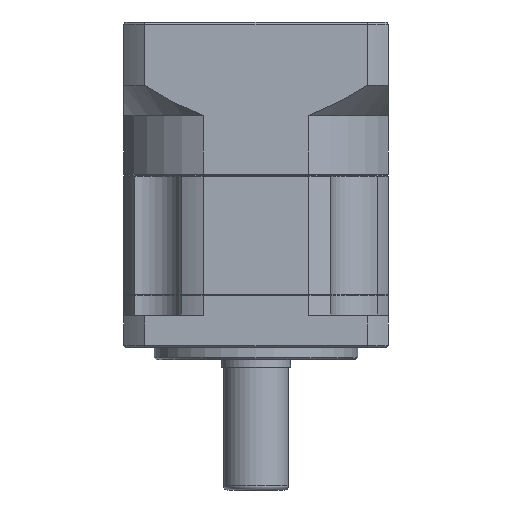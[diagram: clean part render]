
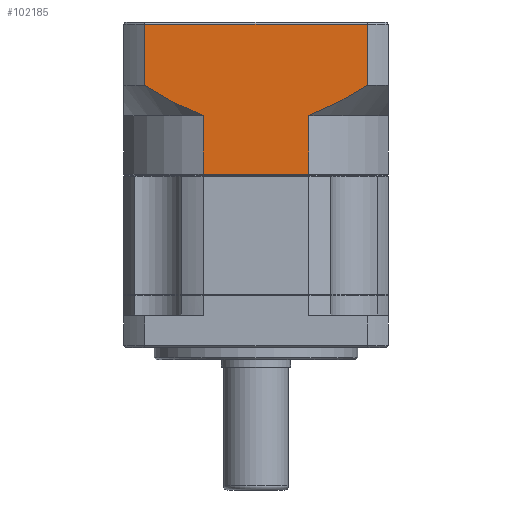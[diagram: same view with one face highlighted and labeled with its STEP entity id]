
A CAD part, front view. The second image highlights one B-rep face of the part: STEP entity #102185.
In plain terms, the highlighted planar face has unit normal (0, -1, 0).
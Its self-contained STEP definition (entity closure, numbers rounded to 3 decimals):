
#330 = DIRECTION ( 'NONE',  ( 1., 0., 0. ) ) ;
#545 = CARTESIAN_POINT ( 'NONE',  ( 62.664, -27.975, 46.392 ) ) ;
#1401 = CARTESIAN_POINT ( 'NONE',  ( 2.778, -27.975, 65.803 ) ) ;
#6242 = DIRECTION ( 'NONE',  ( 0., 0., 1. ) ) ;
#6580 = CARTESIAN_POINT ( 'NONE',  ( 17.174, -27.975, 60.803 ) ) ;
#7855 = CARTESIAN_POINT ( 'NONE',  ( 17.174, -27.975, 46.392 ) ) ;
#8542 = VECTOR ( 'NONE', #330, 1000. ) ;
#14613 = CARTESIAN_POINT ( 'NONE',  ( 2.778, -27.975, 68.303 ) ) ;
#14723 = CARTESIAN_POINT ( 'NONE',  ( 5.047, -27.975, 66.841 ) ) ;
#14738 = CARTESIAN_POINT ( 'NONE',  ( 7.362, -27.975, 65.453 ) ) ;
#14861 = CARTESIAN_POINT ( 'NONE',  ( 10.943, -27.975, 63.548 ) ) ;
#14941 = CARTESIAN_POINT ( 'NONE',  ( 12.155, -27.975, 62.943 ) ) ;
#14961 = CARTESIAN_POINT ( 'NONE',  ( 14.008, -27.975, 62.093 ) ) ;
#15057 = CARTESIAN_POINT ( 'NONE',  ( 14.632, -27.975, 61.82 ) ) ;
#15071 = CARTESIAN_POINT ( 'NONE',  ( 15.893, -27.975, 61.294 ) ) ;
#16009 = CARTESIAN_POINT ( 'NONE',  ( 16.531, -27.975, 61.042 ) ) ;
#16138 = CARTESIAN_POINT ( 'NONE',  ( 17.174, -27.975, 60.803 ) ) ;
#19516 = B_SPLINE_CURVE_WITH_KNOTS ( 'NONE', 3,
 ( #16138, #16009, #15071, #15057, #14961, #14941, #14861, #14738, #14723, #14613 ),
 .UNSPECIFIED., .F., .F.,
 ( 4, 2, 2, 2, 4 ),
 ( 0.101, 0.104, 0.106, 0.11, 0.118 ),
 .UNSPECIFIED. ) ;
#21038 = CARTESIAN_POINT ( 'NONE',  ( 43.155, -27.975, 60.803 ) ) ;
#21788 = VECTOR ( 'NONE', #63456, 1000. ) ;
#25274 = LINE ( 'NONE', #90711, #44725 ) ;
#26575 = CARTESIAN_POINT ( 'NONE',  ( 62.664, -27.975, 83.803 ) ) ;
#29448 = LINE ( 'NONE', #6580, #51441 ) ;
#34948 = DIRECTION ( 'NONE',  ( -1., 0., 0. ) ) ;
#38716 = EDGE_CURVE ( 'NONE', #40178, #41928, #64515, .T. ) ;
#38840 = VERTEX_POINT ( 'NONE', #65368 ) ;
#38870 = EDGE_CURVE ( 'NONE', #40178, #43082, #77250, .T. ) ;
#39017 = EDGE_CURVE ( 'NONE', #42960, #43082, #61810, .T. ) ;
#39637 = EDGE_CURVE ( 'NONE', #38840, #42960, #19516, .T. ) ;
#39829 = EDGE_CURVE ( 'NONE', #41947, #38840, #29448, .T. ) ;
#40103 = EDGE_CURVE ( 'NONE', #41947, #46518, #96176, .T. ) ;
#40170 = DIRECTION ( 'NONE',  ( 0., 0., 1. ) ) ;
#40178 = VERTEX_POINT ( 'NONE', #84847 ) ;
#40736 = EDGE_CURVE ( 'NONE', #44344, #46518, #25274, .T. ) ;
#40895 = EDGE_CURVE ( 'NONE', #41928, #44344, #92625, .T. ) ;
#41928 = VERTEX_POINT ( 'NONE', #100534 ) ;
#41947 = VERTEX_POINT ( 'NONE', #7855 ) ;
#42621 = VECTOR ( 'NONE', #69369, 1000. ) ;
#42960 = VERTEX_POINT ( 'NONE', #50343 ) ;
#43082 = VERTEX_POINT ( 'NONE', #64944 ) ;
#44344 = VERTEX_POINT ( 'NONE', #21038 ) ;
#44725 = VECTOR ( 'NONE', #88462, 1000. ) ;
#46220 = EDGE_LOOP ( 'NONE', ( #49629, #51156, #51886, #53728, #54466, #55703, #56323, #57610 ) ) ;
#46518 = VERTEX_POINT ( 'NONE', #99491 ) ;
#49629 = ORIENTED_EDGE ( 'NONE', *, *, #38716, .F. ) ;
#50143 = CARTESIAN_POINT ( 'NONE',  ( 2.778, -27.975, 83.303 ) ) ;
#50343 = CARTESIAN_POINT ( 'NONE',  ( 2.778, -27.975, 68.303 ) ) ;
#51156 = ORIENTED_EDGE ( 'NONE', *, *, #38870, .T. ) ;
#51441 = VECTOR ( 'NONE', #6242, 1000. ) ;
#51886 = ORIENTED_EDGE ( 'NONE', *, *, #39017, .F. ) ;
#53728 = ORIENTED_EDGE ( 'NONE', *, *, #39637, .F. ) ;
#54466 = ORIENTED_EDGE ( 'NONE', *, *, #39829, .F. ) ;
#55703 = ORIENTED_EDGE ( 'NONE', *, *, #40103, .T. ) ;
#56323 = ORIENTED_EDGE ( 'NONE', *, *, #40736, .F. ) ;
#57610 = ORIENTED_EDGE ( 'NONE', *, *, #40895, .F. ) ;
#61207 = FACE_OUTER_BOUND ( 'NONE', #46220, .T. ) ;
#61810 = LINE ( 'NONE', #1401, #105155 ) ;
#62194 = AXIS2_PLACEMENT_3D ( 'NONE', #26575, #84121, #34948 ) ;
#63456 = DIRECTION ( 'NONE',  ( -1., 0., 0. ) ) ;
#64515 = LINE ( 'NONE', #69916, #42621 ) ;
#64944 = CARTESIAN_POINT ( 'NONE',  ( 2.778, -27.975, 83.303 ) ) ;
#65368 = CARTESIAN_POINT ( 'NONE',  ( 17.174, -27.975, 60.803 ) ) ;
#69369 = DIRECTION ( 'NONE',  ( 0., 0., -1. ) ) ;
#69916 = CARTESIAN_POINT ( 'NONE',  ( 57.55, -27.975, 65.803 ) ) ;
#77250 = LINE ( 'NONE', #50143, #21788 ) ;
#79612 = CARTESIAN_POINT ( 'NONE',  ( 43.155, -27.975, 60.803 ) ) ;
#79740 = CARTESIAN_POINT ( 'NONE',  ( 45.694, -27.975, 61.746 ) ) ;
#79753 = CARTESIAN_POINT ( 'NONE',  ( 48.145, -27.975, 62.89 ) ) ;
#79853 = CARTESIAN_POINT ( 'NONE',  ( 51.739, -27.975, 64.799 ) ) ;
#79875 = CARTESIAN_POINT ( 'NONE',  ( 52.925, -27.975, 65.469 ) ) ;
#80088 = CARTESIAN_POINT ( 'NONE',  ( 57.55, -27.975, 68.303 ) ) ;
#80570 = CARTESIAN_POINT ( 'NONE',  ( 56.412, -27.975, 67.57 ) ) ;
#80656 = CARTESIAN_POINT ( 'NONE',  ( 55.26, -27.975, 66.854 ) ) ;
#84121 = DIRECTION ( 'NONE',  ( 0., 1., 0. ) ) ;
#84847 = CARTESIAN_POINT ( 'NONE',  ( 57.55, -27.975, 83.303 ) ) ;
#88462 = DIRECTION ( 'NONE',  ( 0., 0., -1. ) ) ;
#90711 = CARTESIAN_POINT ( 'NONE',  ( 43.155, -27.975, 60.803 ) ) ;
#92625 = B_SPLINE_CURVE_WITH_KNOTS ( 'NONE', 3,
 ( #80088, #80570, #80656, #79875, #79853, #79753, #79740, #79612 ),
 .UNSPECIFIED., .F., .F.,
 ( 4, 2, 2, 4 ),
 ( 0.059, 0.063, 0.067, 0.075 ),
 .UNSPECIFIED. ) ;
#96176 = LINE ( 'NONE', #545, #8542 ) ;
#99491 = CARTESIAN_POINT ( 'NONE',  ( 43.155, -27.975, 46.392 ) ) ;
#100080 = PLANE ( 'NONE',  #62194 ) ;
#100534 = CARTESIAN_POINT ( 'NONE',  ( 57.55, -27.975, 68.303 ) ) ;
#102185 = ADVANCED_FACE ( 'NONE', ( #61207 ), #100080, .F. ) ;
#105155 = VECTOR ( 'NONE', #40170, 1000. ) ;
